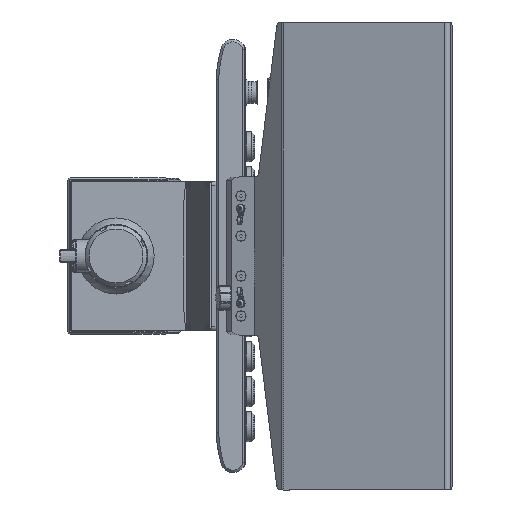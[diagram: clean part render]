
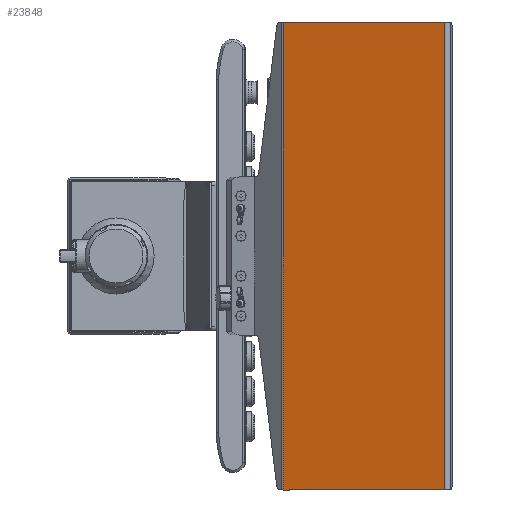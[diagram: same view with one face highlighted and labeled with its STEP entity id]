
A CAD part, front view. The second image highlights one B-rep face of the part: STEP entity #23848.
In plain terms, the highlighted planar face has unit normal (-0.259, -0.966, 0).
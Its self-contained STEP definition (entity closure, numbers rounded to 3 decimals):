
#3146=FACE_OUTER_BOUND('',#4443,.T.);
#4443=EDGE_LOOP('',(#17103,#17104,#17105,#17106));
#6012=LINE('',#34269,#8313);
#6105=LINE('',#34577,#8406);
#6106=LINE('',#34581,#8407);
#6108=LINE('',#34584,#8409);
#8313=VECTOR('',#27767,10.);
#8406=VECTOR('',#28038,10.);
#8407=VECTOR('',#28045,10.);
#8409=VECTOR('',#28049,10.);
#10642=VERTEX_POINT('',#34266);
#10643=VERTEX_POINT('',#34268);
#10699=VERTEX_POINT('',#34460);
#10702=VERTEX_POINT('',#34468);
#13016=EDGE_CURVE('',#10643,#10642,#6012,.T.);
#13154=EDGE_CURVE('',#10699,#10702,#6105,.T.);
#13155=EDGE_CURVE('',#10699,#10642,#6106,.T.);
#13157=EDGE_CURVE('',#10643,#10702,#6108,.T.);
#17103=ORIENTED_EDGE('',*,*,#13154,.T.);
#17104=ORIENTED_EDGE('',*,*,#13157,.F.);
#17105=ORIENTED_EDGE('',*,*,#13016,.T.);
#17106=ORIENTED_EDGE('',*,*,#13155,.F.);
#23041=PLANE('',#25241);
#23848=ADVANCED_FACE('',(#3146),#23041,.T.);
#25241=AXIS2_PLACEMENT_3D('',#34583,#28047,#28048);
#27767=DIRECTION('',(0.,0.,1.));
#28038=DIRECTION('',(0.,0.,-1.));
#28045=DIRECTION('',(0.966,-0.259,0.));
#28047=DIRECTION('center_axis',(-0.259,-0.966,0.));
#28048=DIRECTION('ref_axis',(0.966,-0.259,0.));
#28049=DIRECTION('',(-0.966,0.259,0.));
#34266=CARTESIAN_POINT('',(201.548,-338.994,368.255));
#34268=CARTESIAN_POINT('',(201.548,-338.994,-99.745));
#34269=CARTESIAN_POINT('',(201.548,-338.994,17.255));
#34460=CARTESIAN_POINT('',(40.077,-295.727,368.255));
#34468=CARTESIAN_POINT('',(40.077,-295.727,-99.745));
#34577=CARTESIAN_POINT('',(40.077,-295.727,251.255));
#34581=CARTESIAN_POINT('',(38.886,-295.408,368.255));
#34583=CARTESIAN_POINT('Origin',(122.439,-317.796,134.255));
#34584=CARTESIAN_POINT('',(205.991,-340.184,-99.745));
